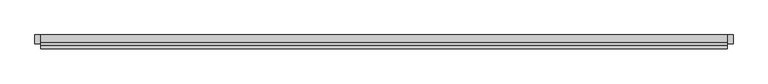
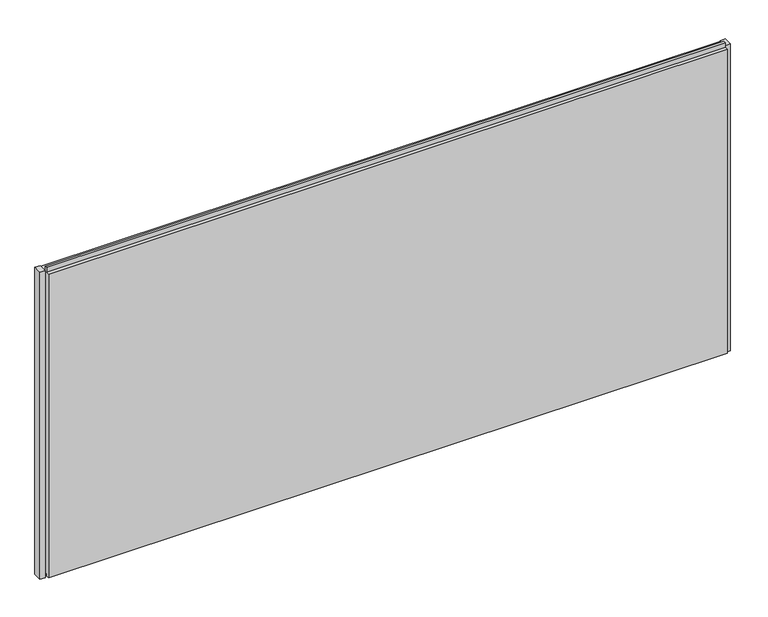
"""IFC4 building model written with IfcOpenShell, lengths in millimetres: plate geometry, Trimo_Qbiss Screen_Normal Panel-HORIZONTAL : HR - FB-F."""

from ifc_helpers import new_model, si_unit, frame, origin, place, context, project, spatial, polyline, outline, extrude, source, transform, mapped, element, save


def plate_acce0838(model_context):
    return source(origin(), model_context, "Body", "SweptSolid", [
        extrude(outline(polyline([(-1276.0, 67.8978162), (-1295.0, 67.8978162), (-1295.0, 100.0), (-1276.0, 100.0), (-1276.0, 67.8978162)])), frame((0.0, 0.0, -1.0), z_axis=(0.0, 0.0, 1.0), x_axis=(1.0, 0.0, 0.0)), (0.0, 0.0, 1.0), 1200.0),
        extrude(outline(polyline([(1259.5, 67.8978162), (1240.5, 67.8978162), (1240.5, 100.0), (1259.5, 100.0), (1259.5, 67.8978162)])), frame((0.0, 0.0, -1.0), z_axis=(0.0, 0.0, 1.0), x_axis=(1.0, 0.0, 0.0)), (0.0, 0.0, 1.0), 1200.0),
        extrude(outline(polyline([(71.0, 1196.0), (100.0, 1196.0), (100.0, 0.0), (72.0, 0.0), (72.0, 15.5), (62.0, 15.5), (62.0, 7.0), (50.0, 7.0), (50.0, 1196.0), (63.0, 1196.0), (63.0, 1214.5), (71.0, 1214.5), (71.0, 1196.0)])), frame((-1273.0, 0.0, 0.0), z_axis=(1.0, 0.0, 0.0), x_axis=(0.0, 1.0, 0.0)), (0.0, 0.0, 1.0), 2510.5),
    ])


if __name__ == "__main__":
    model = new_model("IFC4")
    model_context = context("Model", 3, world=origin())
    ifc_project = project(units=[si_unit("LENGTHUNIT", "METRE", prefix="MILLI")], contexts=[model_context])
    site = spatial("IfcSite", under=ifc_project)
    building = spatial("IfcBuilding", under=site)
    placement = place(None, origin())
    plate_shape = plate_acce0838(model_context)
    element("IfcPlate", 1, ObjectType="Trimo_Qbiss Screen_Normal Panel-HORIZONTAL : HR - FB-F", at=placement, inside=building, context=model_context, shape_type="MappedRepresentation", body=[
        mapped(plate_shape, transform((0.0, 0.0, 0.0), x_axis=(1.0, 0.0, 0.0), y_axis=(0.0, 1.0, 0.0), z_axis=(0.0, 0.0, 1.0))),
    ])
    save(model, "model.ifc")
